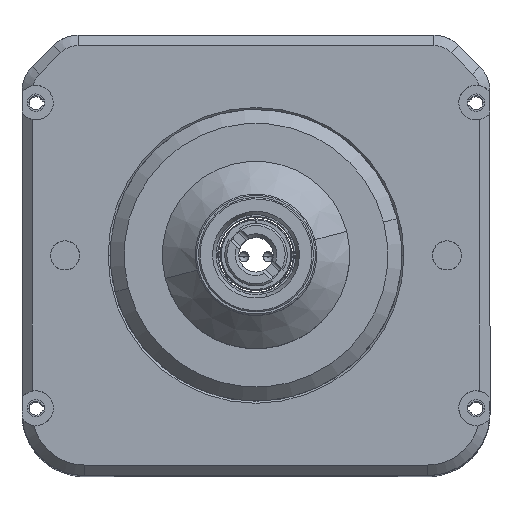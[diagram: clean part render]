
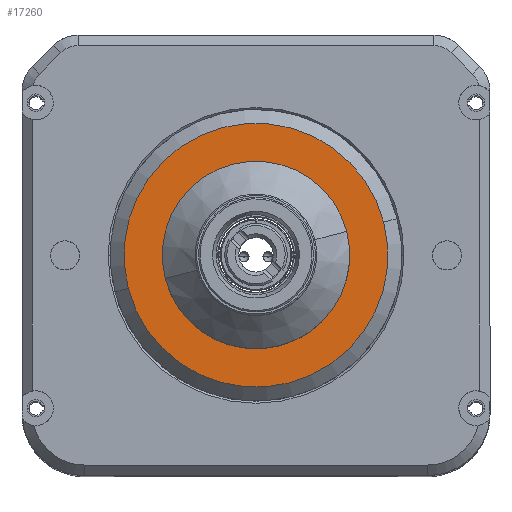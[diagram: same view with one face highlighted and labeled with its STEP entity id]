
A CAD part, top view. The second image highlights one B-rep face of the part: STEP entity #17260.
In plain terms, the highlighted planar face has unit normal (0, 0, 1).
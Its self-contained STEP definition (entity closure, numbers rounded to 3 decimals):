
#78 = EDGE_CURVE ( 'NONE', #26988, #3345, #6808, .T. ) ;
#2329 = ORIENTED_EDGE ( 'NONE', *, *, #30751, .T. ) ;
#3345 = VERTEX_POINT ( 'NONE', #20611 ) ;
#3623 = CARTESIAN_POINT ( 'NONE',  ( -3.39, 13.067, 24. ) ) ;
#3869 = DIRECTION ( 'NONE',  ( 0.968, 0.251, 0. ) ) ;
#3939 = DIRECTION ( 'NONE',  ( 0., 0., 1. ) ) ;
#4047 = AXIS2_PLACEMENT_3D ( 'NONE', #3623, #3939, #20933 ) ;
#4697 = EDGE_CURVE ( 'NONE', #21712, #6276, #22995, .T. ) ;
#5786 = ORIENTED_EDGE ( 'NONE', *, *, #78, .T. ) ;
#6043 = EDGE_CURVE ( 'NONE', #6276, #21712, #24612, .T. ) ;
#6276 = VERTEX_POINT ( 'NONE', #27266 ) ;
#6404 = FACE_BOUND ( 'NONE', #15399, .T. ) ;
#6808 = CIRCLE ( 'NONE', #18929, 19. ) ;
#7306 = EDGE_LOOP ( 'NONE', ( #5786, #2329 ) ) ;
#7686 = DIRECTION ( 'NONE',  ( 0., 0., 1. ) ) ;
#7926 = CIRCLE ( 'NONE', #21076, 19. ) ;
#8824 = AXIS2_PLACEMENT_3D ( 'NONE', #11297, #11457, #3869 ) ;
#9631 = CARTESIAN_POINT ( 'NONE',  ( 13.067, 3.39, 24. ) ) ;
#11297 = CARTESIAN_POINT ( 'NONE',  ( 0., 0., 24. ) ) ;
#11457 = DIRECTION ( 'NONE',  ( 0., 0., 1. ) ) ;
#15399 = EDGE_LOOP ( 'NONE', ( #27573, #22137 ) ) ;
#17260 = ADVANCED_FACE ( 'NONE', ( #29008, #6404 ), #31455, .T. ) ;
#17758 = DIRECTION ( 'NONE',  ( 0.968, 0.251, 0. ) ) ;
#18929 = AXIS2_PLACEMENT_3D ( 'NONE', #19067, #30928, #26331 ) ;
#19067 = CARTESIAN_POINT ( 'NONE',  ( 0., 0., 24. ) ) ;
#19845 = AXIS2_PLACEMENT_3D ( 'NONE', #20234, #7686, #17758 ) ;
#20234 = CARTESIAN_POINT ( 'NONE',  ( 0., 0., 24. ) ) ;
#20611 = CARTESIAN_POINT ( 'NONE',  ( 18.391, 4.771, 24. ) ) ;
#20933 = DIRECTION ( 'NONE',  ( 0.968, 0.251, 0. ) ) ;
#21076 = AXIS2_PLACEMENT_3D ( 'NONE', #28407, #23604, #31182 ) ;
#21712 = VERTEX_POINT ( 'NONE', #9631 ) ;
#22137 = ORIENTED_EDGE ( 'NONE', *, *, #6043, .F. ) ;
#22995 = CIRCLE ( 'NONE', #19845, 13.5 ) ;
#23604 = DIRECTION ( 'NONE',  ( 0., 0., 1. ) ) ;
#23633 = CARTESIAN_POINT ( 'NONE',  ( -18.391, -4.771, 24. ) ) ;
#24612 = CIRCLE ( 'NONE', #8824, 13.5 ) ;
#26331 = DIRECTION ( 'NONE',  ( 0.968, 0.251, 0. ) ) ;
#26988 = VERTEX_POINT ( 'NONE', #23633 ) ;
#27266 = CARTESIAN_POINT ( 'NONE',  ( -13.067, -3.39, 24. ) ) ;
#27573 = ORIENTED_EDGE ( 'NONE', *, *, #4697, .F. ) ;
#28407 = CARTESIAN_POINT ( 'NONE',  ( 0., 0., 24. ) ) ;
#29008 = FACE_OUTER_BOUND ( 'NONE', #7306, .T. ) ;
#30751 = EDGE_CURVE ( 'NONE', #3345, #26988, #7926, .T. ) ;
#30928 = DIRECTION ( 'NONE',  ( 0., 0., 1. ) ) ;
#31182 = DIRECTION ( 'NONE',  ( 0.968, 0.251, 0. ) ) ;
#31455 = PLANE ( 'NONE',  #4047 ) ;
